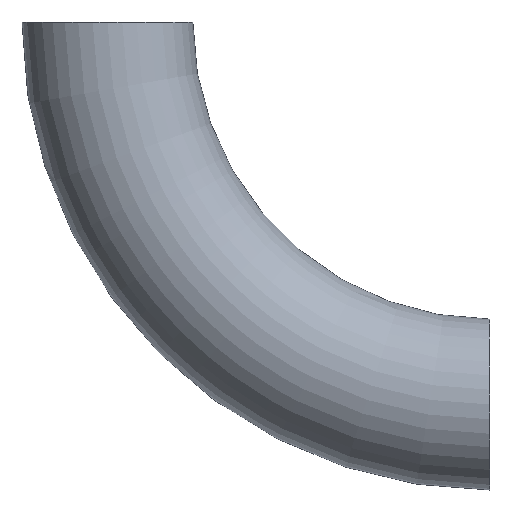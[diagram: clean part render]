
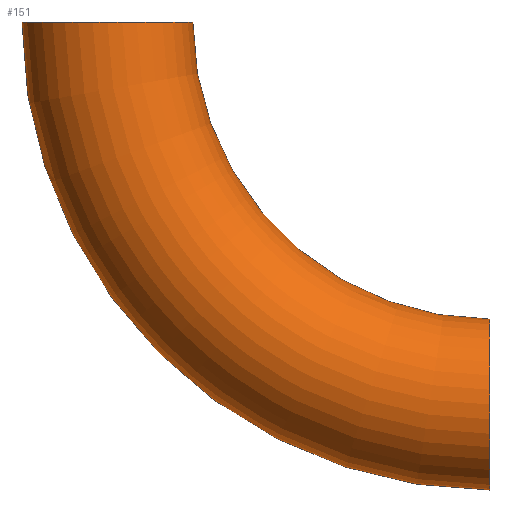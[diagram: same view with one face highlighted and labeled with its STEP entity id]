
A CAD part, front view. The second image highlights one B-rep face of the part: STEP entity #151.
In plain terms, the highlighted toroidal (fillet/blend) face has major radius 135 mm and minor radius 30.15 mm.
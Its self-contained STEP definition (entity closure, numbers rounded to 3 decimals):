
#9 = CIRCLE ( 'NONE', #94, 165.15 ) ;
#15 = EDGE_CURVE ( 'NONE', #27, #157, #227, .T. ) ;
#27 = VERTEX_POINT ( 'NONE', #205 ) ;
#31 = CARTESIAN_POINT ( 'NONE',  ( -135., 0., 0. ) ) ;
#33 = DIRECTION ( 'NONE',  ( 0., 0., 1. ) ) ;
#45 = DIRECTION ( 'NONE',  ( 0., 1., 0. ) ) ;
#48 = CIRCLE ( 'NONE', #147, 30.15 ) ;
#50 = DIRECTION ( 'NONE',  ( 0., 0., 1. ) ) ;
#52 = FACE_OUTER_BOUND ( 'NONE', #129, .T. ) ;
#70 = DIRECTION ( 'NONE',  ( 1., 0., 0. ) ) ;
#90 = DIRECTION ( 'NONE',  ( -1., 0., 0. ) ) ;
#94 = AXIS2_PLACEMENT_3D ( 'NONE', #170, #249, #150 ) ;
#104 = CARTESIAN_POINT ( 'NONE',  ( -165.15, 0., 0. ) ) ;
#106 = AXIS2_PLACEMENT_3D ( 'NONE', #165, #45, #120 ) ;
#107 = CARTESIAN_POINT ( 'NONE',  ( 0., 0., 0. ) ) ;
#112 = ORIENTED_EDGE ( 'NONE', *, *, #123, .F. ) ;
#116 = AXIS2_PLACEMENT_3D ( 'NONE', #107, #188, #50 ) ;
#120 = DIRECTION ( 'NONE',  ( 0., 0., 1. ) ) ;
#123 = EDGE_CURVE ( 'NONE', #133, #157, #139, .T. ) ;
#124 = TOROIDAL_SURFACE ( 'NONE', #116, 135., 30.15 ) ;
#129 = EDGE_LOOP ( 'NONE', ( #140, #176, #226, #112 ) ) ;
#132 = CARTESIAN_POINT ( 'NONE',  ( 0., 0., -135. ) ) ;
#133 = VERTEX_POINT ( 'NONE', #104 ) ;
#139 = CIRCLE ( 'NONE', #243, 30.15 ) ;
#140 = ORIENTED_EDGE ( 'NONE', *, *, #202, .F. ) ;
#147 = AXIS2_PLACEMENT_3D ( 'NONE', #132, #90, #33 ) ;
#150 = DIRECTION ( 'NONE',  ( 0., 0., 1. ) ) ;
#151 = ADVANCED_FACE ( 'NONE', ( #52 ), #124, .T. ) ;
#153 = VERTEX_POINT ( 'NONE', #169 ) ;
#157 = VERTEX_POINT ( 'NONE', #230 ) ;
#165 = CARTESIAN_POINT ( 'NONE',  ( 0., 0., 0. ) ) ;
#169 = CARTESIAN_POINT ( 'NONE',  ( 0., 0., -165.15 ) ) ;
#170 = CARTESIAN_POINT ( 'NONE',  ( 0., 0., 0. ) ) ;
#176 = ORIENTED_EDGE ( 'NONE', *, *, #223, .T. ) ;
#188 = DIRECTION ( 'NONE',  ( 0., 1., 0. ) ) ;
#190 = DIRECTION ( 'NONE',  ( 0., 0., 1. ) ) ;
#202 = EDGE_CURVE ( 'NONE', #153, #133, #9, .T. ) ;
#205 = CARTESIAN_POINT ( 'NONE',  ( 0., 0., -104.85 ) ) ;
#223 = EDGE_CURVE ( 'NONE', #153, #27, #48, .T. ) ;
#226 = ORIENTED_EDGE ( 'NONE', *, *, #15, .T. ) ;
#227 = CIRCLE ( 'NONE', #106, 104.85 ) ;
#230 = CARTESIAN_POINT ( 'NONE',  ( -104.85, 0., 0. ) ) ;
#243 = AXIS2_PLACEMENT_3D ( 'NONE', #31, #190, #70 ) ;
#249 = DIRECTION ( 'NONE',  ( 0., 1., 0. ) ) ;
